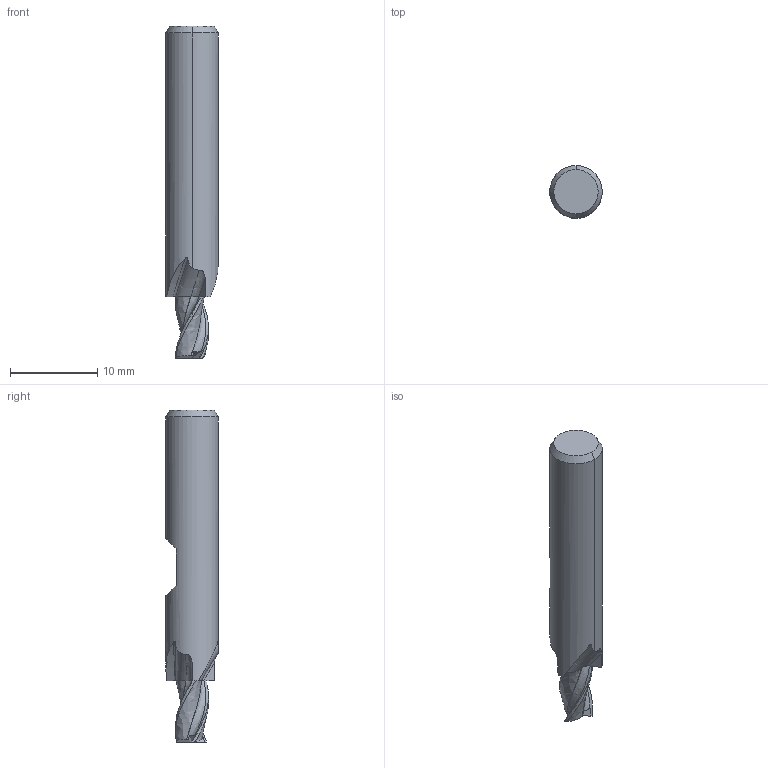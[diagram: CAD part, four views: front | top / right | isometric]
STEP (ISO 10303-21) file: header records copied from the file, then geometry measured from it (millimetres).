
FILE_DESCRIPTION(('no description'),'unknown implementation level');
FILE_NAME('solidWNC1ipwiCwTpkiTpVw8kviD5EDU_1.STP',' ',('CIMSOURCE GmbH'),('CADClick - KiM GmbH - www.kimweb.de'),'unknown preprocess','ACIS','unknown authorization');
FILE_SCHEMA(('automotive_design'));
Length unit declared in the file: millimetre
Products named in the file (2): NOCUT; CUT
Bounding box: 6 x 6 x 38 mm (x, y, z)
Volume: 855.9 mm3; surface area: 716 mm2
Topology: 2 solids, 2 shells, 71 faces, 196 edges, 129 vertices
Faces by surface type: plane 26, revolution 15, bspline 12, cylinder 11, cone 7
Entity records: 7263 total; most frequent: CARTESIAN_POINT 3388, STYLED_ITEM 398, PRESENTATION_STYLE_ASSIGNMENT 398, COLOUR_RGB 398, ORIENTED_EDGE 392, DIRECTION 262, EDGE_CURVE 196, CURVE_STYLE 196
